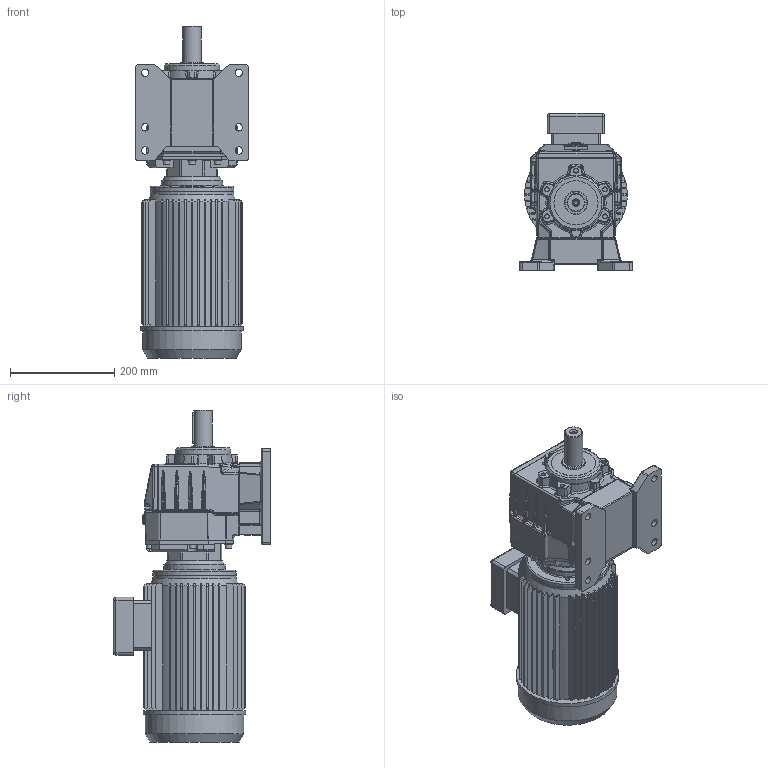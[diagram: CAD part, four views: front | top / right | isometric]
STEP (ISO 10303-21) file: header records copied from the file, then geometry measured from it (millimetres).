
FILE_DESCRIPTION( ( 'Unknown' ), '1' );
FILE_NAME( 'E:/services/configuratordownloads/customers/HYDROMEC/COASSIALI/download/A944D3762A42B7772364DED13FAC4090/STEP/A944D3762A42B7772364DED13FAC4090.3d.stp', 'Unknown', ( 'Unknown' ), ( 'Unknown' ), 'PSStep 10.1', 'Unknown', ' ' );
FILE_SCHEMA( ( 'AUTOMOTIVE_DESIGN { 1 0 10303 214 1 1 1 1 }' ) );
Length unit declared in the file: millimetre
Products named in the file (1): C618800
Bounding box: 216 x 302.35 x 638.4 mm (x, y, z)
Volume: 14994162.8 mm3; surface area: 838531.3 mm2
Topology: 1 solids, 35 shells, 1753 faces, 4337 edges, 2716 vertices
Faces by surface type: plane 887, cylinder 429, bspline 212, cone 125, torus 62, sphere 26, revolution 8, extrusion 4
Full cylindrical faces by diameter (mm): 4.917 x6, 6 x6, 6.5 x1, 6.8 x8, 7.175 x6, 8 x1, 8.376 x6, 8.5 x8, 9 x4, 10 x6, 10.106 x4, 10.5 x1, 11.3 x1, 11.445 x2, 12.75 x8, 13 x7, 13.5 x1, 14 x6, 18 x1, 19 x1, 20 x1, 22 x1, 35 x1, 45 x2, 62 x1, 68 x1, 85 x1, 103 x1, 106 x1, 107 x1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
Entity records: 76828 total; most frequent: CARTESIAN_POINT 24009, ORIENTED_EDGE 8088, DIRECTION 7513, EDGE_CURVE 4044, AXIS2_PLACEMENT_3D 2635, VERTEX_POINT 2629, VECTOR 2235, LINE 2231
